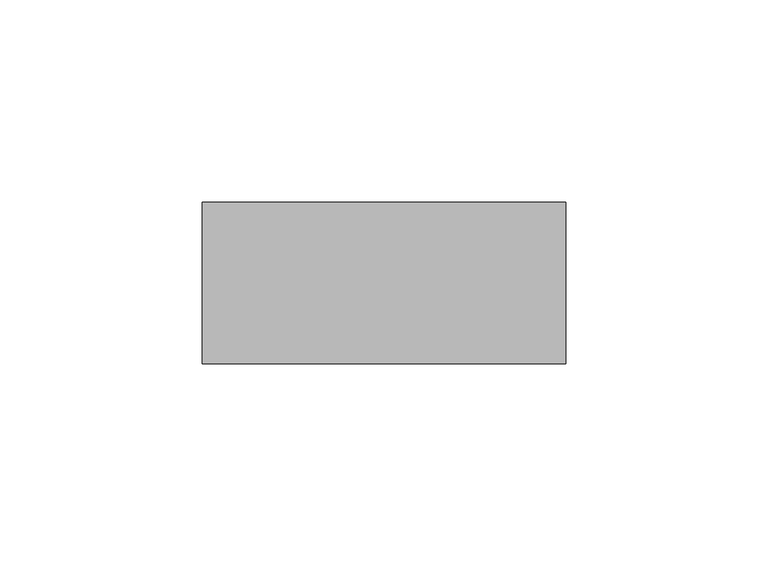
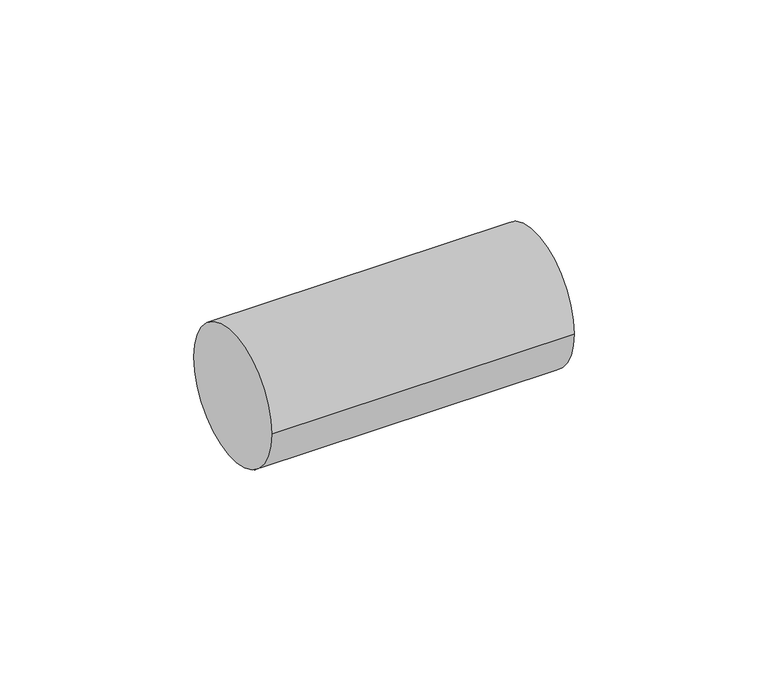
"""IFC4 building model written with IfcOpenShell, lengths in millimetres: valve geometry, EVRA_Термоголовка EVRA MТB140 : EVRA MТB140."""

import ifcopenshell
import ifcopenshell.guid

model = None  # the IFC model being written
_history = None  # IfcOwnerHistory: only IFC2X3 demands one
_inside = {}  # id of a spatial element -> (the spatial element, [elements in it])
_under = {}  # id of a project, library or spatial element -> (it, [spatial elements below it])
_declared = {}  # id of a project -> (the project, [libraries it declares])
_typed = {}  # id of a type object -> (the type object, [elements of that type])
_made_of = {}  # id of a material, layer set ... -> (it, [elements and type objects made of it])


def new_model(schema):
    """Start an empty IFC model of exactly this schema.

    Asked for "IFC4X3", IfcOpenShell would pick the latest addendum, in which some entities
    have other attributes; the version numbers below select the first issue.
    IFC2X3 requires an IfcOwnerHistory on every rooted entity: one is made here for all.
    """
    global model, _history
    if schema == "IFC4X3":
        model = ifcopenshell.file(schema_version=(4, 3, 0, 0))
    else:
        model = ifcopenshell.file(schema=schema)
    _inside.clear()
    _under.clear()
    _declared.clear()
    _typed.clear()
    _made_of.clear()
    _history = None
    if model.schema == "IFC2X3":
        org = make("IfcOrganization", Name="unknown")
        user = make(
            "IfcPersonAndOrganization",
            ThePerson=make("IfcPerson", FamilyName="unknown"),
            TheOrganization=org,
        )
        app = make(
            "IfcApplication",
            ApplicationDeveloper=org,
            Version="unknown",
            ApplicationFullName="unknown",
            ApplicationIdentifier="unknown",
        )
        _history = make(
            "IfcOwnerHistory",
            OwningUser=user,
            OwningApplication=app,
            ChangeAction="ADDED",
            CreationDate=0,
        )
    return model


def make(cls, **values):
    """One entity of the class cls with the attributes given. An attribute that is None is left unset."""
    return model.create_entity(
        cls, **{name: value for name, value in values.items() if value is not None}
    )


def rooted(cls, **values):
    """An entity with a GlobalId (a new one), such as an element, a storey or a relation."""
    return make(cls, GlobalId=ifcopenshell.guid.new(), OwnerHistory=_history, **values)


def si_unit(unit_type, name, prefix=None):
    """IfcSIUnit, for example si_unit("LENGTHUNIT", "METRE", prefix="MILLI")."""
    return make("IfcSIUnit", UnitType=unit_type, Prefix=prefix, Name=name)


def assignment(units):
    """IfcUnitAssignment: the units of a project."""
    return None if units is None else make("IfcUnitAssignment", Units=units)


def point(xyz):
    """IfcCartesianPoint."""
    return None if xyz is None else make("IfcCartesianPoint", Coordinates=xyz)


def direction(xyz):
    """IfcDirection."""
    return None if xyz is None else make("IfcDirection", DirectionRatios=xyz)


def frame(location, z_axis=None, x_axis=None):
    """IfcAxis2Placement3D, a coordinate frame: its origin and axes. An axis left out is left unset."""
    return make(
        "IfcAxis2Placement3D",
        Location=point(location),
        Axis=direction(z_axis),
        RefDirection=direction(x_axis),
    )


def frame_2d(location, x_axis=None):
    """IfcAxis2Placement2D, a coordinate frame in the plane: its origin and x axis."""
    return make(
        "IfcAxis2Placement2D", Location=point(location), RefDirection=direction(x_axis)
    )


def origin():
    """The frame at (0, 0, 0) with its axes left unset."""
    return frame((0.0, 0.0, 0.0))


def origin_2d():
    """The frame at (0, 0) in the plane with its x axis left unset."""
    return frame_2d((0.0, 0.0))


def place(relative_to, where):
    """IfcLocalPlacement: puts the frame where relative to a parent placement (None: the world)."""
    return make(
        "IfcLocalPlacement", PlacementRelTo=relative_to, RelativePlacement=where
    )


def context(
    kind, dimensions, precision=None, world=None, true_north=None, identifier=None
):
    """IfcGeometricRepresentationContext, for example the 3D "Model" context."""
    return make(
        "IfcGeometricRepresentationContext",
        ContextIdentifier=identifier,
        ContextType=kind,
        CoordinateSpaceDimension=dimensions,
        Precision=precision,
        WorldCoordinateSystem=world,
        TrueNorth=true_north,
    )


def project(units=None, contexts=None):
    """IfcProject with its units and contexts."""
    return rooted(
        "IfcProject",
        Name="project",
        RepresentationContexts=contexts,
        UnitsInContext=assignment(units),
    )


def spatial(cls, under=None, at=None, **own):
    """A site, building, storey or space (cls), placed at a placement, below another one or the project."""
    s = rooted(cls, ObjectPlacement=at, **own)
    if under is not None:
        _under.setdefault(under.id(), (under, []))[1].append(s)
    return s


def circle_curve(where, radius):
    """IfcCircle in the frame where."""
    return make("IfcCircle", Position=where, Radius=radius)


def trimmed(basis, trim1, trim2, sense, master):
    """IfcTrimmedCurve: the piece of a basis curve between two trims."""
    return make(
        "IfcTrimmedCurve",
        BasisCurve=basis,
        Trim1=trim1,
        Trim2=trim2,
        SenseAgreement=sense,
        MasterRepresentation=master,
    )


def segment(curve, same_sense, transition):
    """IfcCompositeCurveSegment."""
    return make(
        "IfcCompositeCurveSegment",
        Transition=transition,
        SameSense=same_sense,
        ParentCurve=curve,
    )


def composite_curve(segments, self_intersect=None):
    """IfcCompositeCurve: segments joined end to end."""
    return make("IfcCompositeCurve", Segments=segments, SelfIntersect=self_intersect)


def outline(outer, holes=None, kind="AREA"):
    """IfcArbitraryClosedProfileDef: a profile drawn as a closed curve; with holes, ...WithVoids."""
    if holes is None:
        return make("IfcArbitraryClosedProfileDef", ProfileType=kind, OuterCurve=outer)
    return make(
        "IfcArbitraryProfileDefWithVoids",
        ProfileType=kind,
        OuterCurve=outer,
        InnerCurves=holes,
    )


def extrude(swept, where, along, depth):
    """IfcExtrudedAreaSolid: the profile swept, set in the frame where, extruded along a direction by depth."""
    return make(
        "IfcExtrudedAreaSolid",
        SweptArea=swept,
        Position=where,
        ExtrudedDirection=direction(along),
        Depth=depth,
    )


def shape(context_of_items, identifier, shape_type, items):
    """IfcShapeRepresentation: the items that make up one representation, for example the "Body"."""
    return make(
        "IfcShapeRepresentation",
        ContextOfItems=context_of_items,
        RepresentationIdentifier=identifier,
        RepresentationType=shape_type,
        Items=items,
    )


def source(mapping_origin, context_of_items, identifier, shape_type, items):
    """IfcRepresentationMap: a shape defined once, which mapped items show again and again."""
    return make(
        "IfcRepresentationMap",
        MappingOrigin=mapping_origin,
        MappedRepresentation=shape(context_of_items, identifier, shape_type, items),
    )


def transform(
    local_origin,
    x_axis=None,
    y_axis=None,
    z_axis=None,
    scale=None,
    scale2=None,
    scale3=None,
    uniform=True,
):
    """IfcCartesianTransformationOperator3D, or its non-uniform kind. x_axis, y_axis, z_axis: its Axis1, 2, 3."""
    if uniform:
        return make(
            "IfcCartesianTransformationOperator3D",
            Axis1=direction(x_axis),
            Axis2=direction(y_axis),
            LocalOrigin=point(local_origin),
            Scale=scale,
            Axis3=direction(z_axis),
        )
    return make(
        "IfcCartesianTransformationOperator3DnonUniform",
        Axis1=direction(x_axis),
        Axis2=direction(y_axis),
        LocalOrigin=point(local_origin),
        Scale=scale,
        Axis3=direction(z_axis),
        Scale2=scale2,
        Scale3=scale3,
    )


def mapped(mapping_source, mapping_target):
    """IfcMappedItem: shows the shape of a source again, moved by a transform."""
    return make(
        "IfcMappedItem", MappingSource=mapping_source, MappingTarget=mapping_target
    )


def made_of(thing, what):
    """Note that an element or type object is made of a material, layer set ...; save() writes the relation."""
    if what is not None:
        _made_of.setdefault(what.id(), (what, []))[1].append(thing)
    return thing


def element(
    cls,
    number,
    at=None,
    inside=None,
    cuts=None,
    type_object=None,
    material=None,
    context=None,
    identifier="Body",
    shape_type=None,
    held_by="IfcProductDefinitionShape",
    body=None,
    shapes=None,
    **own,
):
    """One element of the class cls, such as IfcWall. Its Tag is "e" and its number.

    at: its placement. inside: the storey or other place that contains it. cuts: it is an
    opening in that element (IfcRelVoidsElement). A single representation is given by context,
    identifier, shape_type and body (its items); several are given by shapes. held_by: the class
    of the entity that holds the representations. save() writes the other relations.
    """
    e = rooted(cls, Tag="e%d" % number, ObjectPlacement=at, **own)
    if body is not None:
        shapes = [shape(context, identifier, shape_type, body)]
    if shapes is not None:
        e.Representation = make(held_by, Representations=shapes)
    if inside is not None:
        _inside.setdefault(inside.id(), (inside, []))[1].append(e)
    if cuts is not None:
        rooted(
            "IfcRelVoidsElement", RelatingBuildingElement=cuts, RelatedOpeningElement=e
        )
    if type_object is not None:
        _typed.setdefault(type_object.id(), (type_object, []))[1].append(e)
    return made_of(e, material)


def aggregate(whole, parts):
    """IfcRelAggregates: a whole, such as a stair, and the parts it consists of."""
    return rooted("IfcRelAggregates", RelatingObject=whole, RelatedObjects=parts)


def save(model, path):
    """Write the relations noted so far, then the file.

    IfcRelAggregates (storeys below a building ...), IfcRelContainedInSpatialStructure (elements
    in a storey), IfcRelDefinesByType, IfcRelAssociatesMaterial and IfcRelDeclares: one each for
    every whole, place, type object, material and project.
    """
    for whole, parts in _under.values():
        aggregate(whole, parts)
    for where, things in _inside.values():
        rooted(
            "IfcRelContainedInSpatialStructure",
            RelatedElements=things,
            RelatingStructure=where,
        )
    for kind, things in _typed.values():
        rooted("IfcRelDefinesByType", RelatedObjects=things, RelatingType=kind)
    for what, things in _made_of.values():
        rooted("IfcRelAssociatesMaterial", RelatedObjects=things, RelatingMaterial=what)
    for by, libraries in _declared.values():
        rooted("IfcRelDeclares", RelatingContext=by, RelatedDefinitions=libraries)
    model.write(path)


def valve_5b696a81(model_context):
    return source(origin(), model_context, "Body", "SweptSolid", [
        extrude(outline(composite_curve([segment(trimmed(circle_curve(origin_2d(), 20.0), [point((-20.0, 0.0))], [point((20.0, 0.0))], False, "CARTESIAN"), True, "CONTINUOUS"), segment(trimmed(circle_curve(origin_2d(), 20.0), [point((20.0, 0.0))], [point((-20.0, 0.0))], False, "CARTESIAN"), True, "CONTINUOUS")], self_intersect=False)), frame((-790.0, 0.0, 0.0), z_axis=(1.0, 0.0, 0.0), x_axis=(0.0, 1.0, 0.0)), (0.0, 0.0, 1.0), 90.0),
    ])


if __name__ == "__main__":
    model = new_model("IFC4")
    model_context = context("Model", 3, world=origin())
    ifc_project = project(units=[si_unit("LENGTHUNIT", "METRE", prefix="MILLI")], contexts=[model_context])
    site = spatial("IfcSite", under=ifc_project)
    building = spatial("IfcBuilding", under=site)
    placement = place(None, origin())
    valve_shape = valve_5b696a81(model_context)
    element("IfcValve", 1, ObjectType="EVRA_Термоголовка EVRA MТB140 : EVRA MТB140", at=placement, inside=building, context=model_context, shape_type="MappedRepresentation", body=[
        mapped(valve_shape, transform((0.0, 0.0, 0.0), x_axis=(1.0, 0.0, 0.0), y_axis=(0.0, 1.0, 0.0), z_axis=(0.0, 0.0, 1.0))),
    ])
    save(model, "model.ifc")
